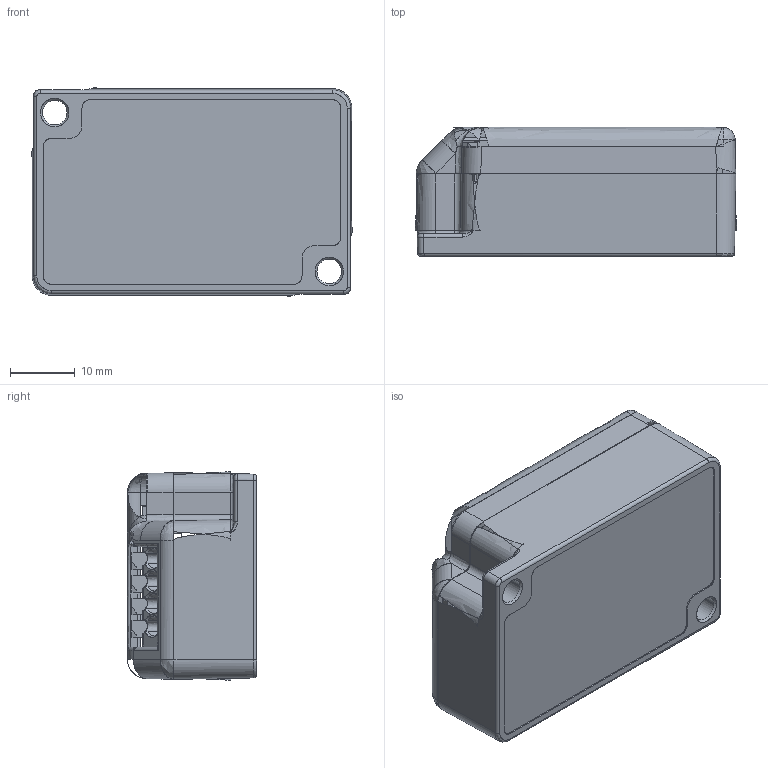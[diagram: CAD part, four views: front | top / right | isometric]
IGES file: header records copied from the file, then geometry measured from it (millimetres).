
Start section: SolidWorks IGES file using analytic representation for surfaces
Global section: file name: C:\Users\jiaqichen\Desktop\1030-000214_Vesta Flex Control Module_0-10V_RevC.IGS; native system: SolidWorks 2020; preprocessor: SolidWorks 2020; author: jiaqichen; date: 200907.152139; units: millimetre
Bounding box: 49.81 x 20 x 32.31 mm (x, y, z)
Surface area: 9909.5 mm2 (no closed solid volume)
Topology: 0 solids, 0 shells, 400 faces, 4180 edges, 4094 vertices
Faces by surface type: bspline 239, revolution 161
